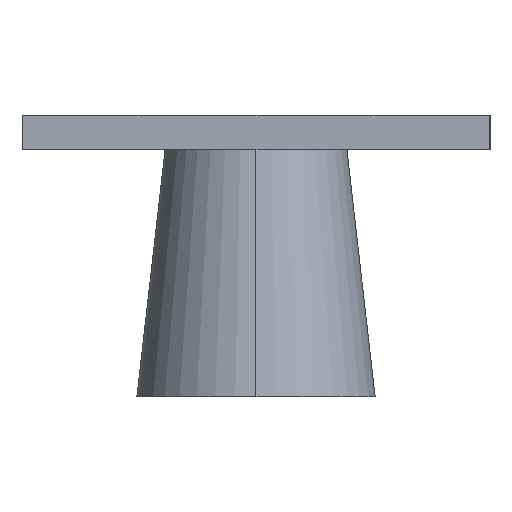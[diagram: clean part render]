
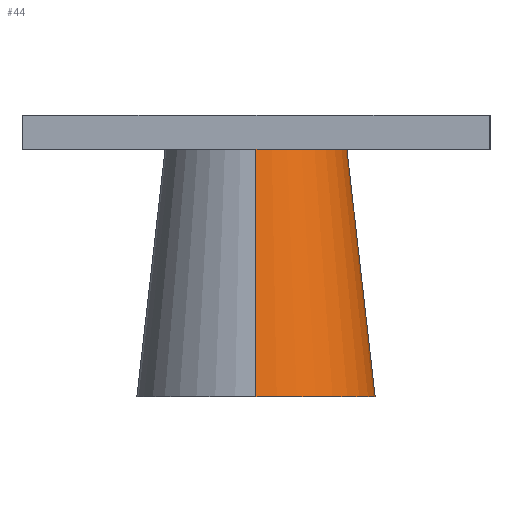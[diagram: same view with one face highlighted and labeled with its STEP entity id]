
A CAD part, left-side view. The second image highlights one B-rep face of the part: STEP entity #44.
In plain terms, the highlighted free-form (B-spline) face has degree [2, 1] with [5, 2] control points.
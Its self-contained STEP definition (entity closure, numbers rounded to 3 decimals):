
#11=(
BOUNDED_SURFACE()
B_SPLINE_SURFACE(2,1,((#1146,#1147),(#1148,#1149),(#1150,#1151),(#1152,
#1153),(#1154,#1155)),.UNSPECIFIED.,.F.,.F.,.F.)
B_SPLINE_SURFACE_WITH_KNOTS((3,2,3),(2,2),(0.,219.247,438.494),
(1007.71,1340.355),.UNSPECIFIED.)
GEOMETRIC_REPRESENTATION_ITEM()
RATIONAL_B_SPLINE_SURFACE(((1.,1.),(0.707,0.707),
(1.,1.),(0.707,0.707),(1.,1.)))
REPRESENTATION_ITEM('')
SURFACE()
);
#44=ADVANCED_FACE('',(#98),#11,.T.);
#98=FACE_OUTER_BOUND('',#152,.T.);
#152=EDGE_LOOP('',(#234,#235,#236,#237));
#234=ORIENTED_EDGE('',*,*,#453,.T.);
#235=ORIENTED_EDGE('',*,*,#448,.F.);
#236=ORIENTED_EDGE('',*,*,#446,.F.);
#237=ORIENTED_EDGE('',*,*,#447,.T.);
#446=EDGE_CURVE('',#707,#706,#558,.T.);
#447=EDGE_CURVE('',#707,#709,#632,.T.);
#448=EDGE_CURVE('',#706,#708,#633,.T.);
#453=EDGE_CURVE('',#709,#708,#561,.T.);
#558=B_SPLINE_CURVE_WITH_KNOTS('',1,(#1178,#1179),.UNSPECIFIED.,.F.,.F.,
(2,2),(1007.71,1340.355),.UNSPECIFIED.);
#561=B_SPLINE_CURVE_WITH_KNOTS('',1,(#1196,#1197),.UNSPECIFIED.,.F.,.F.,
(2,2),(1007.71,1340.355),.UNSPECIFIED.);
#632=TRIMMED_CURVE($,#668,(#1181),(#1182),.T.,.CARTESIAN.);
#633=TRIMMED_CURVE($,#669,(#1184),(#1185),.T.,.CARTESIAN.);
#668=CIRCLE('',#910,102.282);
#669=CIRCLE('',#911,140.);
#706=VERTEX_POINT('',#1170);
#707=VERTEX_POINT('',#1171);
#708=VERTEX_POINT('',#1172);
#709=VERTEX_POINT('',#1173);
#910=AXIS2_PLACEMENT_3D($,#1180,#999,#1000);
#911=AXIS2_PLACEMENT_3D($,#1183,#1001,#1002);
#999=DIRECTION('',(0.,0.,-1.));
#1000=DIRECTION('',(1.,0.,0.));
#1001=DIRECTION('',(0.,0.,-1.));
#1002=DIRECTION('',(1.,0.,0.));
#1146=CARTESIAN_POINT('',(-422.713,-0.007,330.5));
#1147=CARTESIAN_POINT('',(-384.996,-0.007,0.));
#1148=CARTESIAN_POINT('',(-422.713,-102.289,330.5));
#1149=CARTESIAN_POINT('',(-384.996,-140.007,0.));
#1150=CARTESIAN_POINT('',(-524.996,-102.289,330.5));
#1151=CARTESIAN_POINT('',(-524.996,-140.007,0.));
#1152=CARTESIAN_POINT('',(-627.278,-102.289,330.5));
#1153=CARTESIAN_POINT('',(-664.996,-140.007,0.));
#1154=CARTESIAN_POINT('',(-627.278,-0.007,330.5));
#1155=CARTESIAN_POINT('',(-664.996,-0.007,0.));
#1170=CARTESIAN_POINT('',(-384.996,-0.007,0.));
#1171=CARTESIAN_POINT('',(-422.713,-0.007,330.5));
#1172=CARTESIAN_POINT('',(-664.996,-0.007,0.));
#1173=CARTESIAN_POINT('',(-627.278,-0.007,330.5));
#1178=CARTESIAN_POINT('',(-422.713,-0.007,330.5));
#1179=CARTESIAN_POINT('',(-384.996,-0.007,0.));
#1180=CARTESIAN_POINT('',(-524.996,-0.007,330.5));
#1181=CARTESIAN_POINT('',(-422.713,-0.007,330.5));
#1182=CARTESIAN_POINT('',(-627.278,-0.007,330.5));
#1183=CARTESIAN_POINT('',(-524.996,-0.007,0.));
#1184=CARTESIAN_POINT('',(-384.996,-0.007,0.));
#1185=CARTESIAN_POINT('',(-664.996,-0.007,0.));
#1196=CARTESIAN_POINT('',(-627.278,-0.007,330.5));
#1197=CARTESIAN_POINT('',(-664.996,-0.007,0.));
